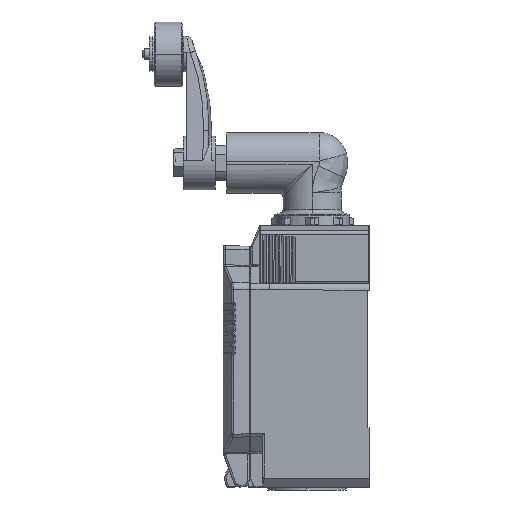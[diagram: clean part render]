
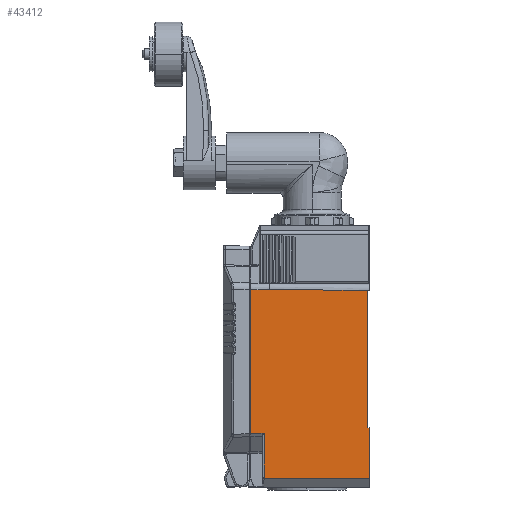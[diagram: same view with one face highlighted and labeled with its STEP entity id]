
A CAD part, left-side view. The second image highlights one B-rep face of the part: STEP entity #43412.
In plain terms, the highlighted planar face has unit normal (-1, 0, 0).
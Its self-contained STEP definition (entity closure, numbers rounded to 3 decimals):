
#546=DIRECTION('',(0.,0.,1.));
#547=VECTOR('',#546,14.096);
#548=CARTESIAN_POINT('',(-21.,-16.,-66.625));
#549=LINE('',#548,#547);
#722=CARTESIAN_POINT('',(-21.,12.,-13.699));
#723=CARTESIAN_POINT('',(-21.,2.667,-13.789));
#724=CARTESIAN_POINT('',(-21.,-6.667,-13.879));
#725=CARTESIAN_POINT('',(-21.,-16.,-13.969));
#727=DIRECTION('',(0.,1.,-0.009));
#728=VECTOR('',#727,0.5);
#729=CARTESIAN_POINT('',(-21.,-16.,-14.012));
#730=LINE('',#729,#728);
#731=DIRECTION('',(0.,0.,1.));
#732=VECTOR('',#731,38.509);
#733=CARTESIAN_POINT('',(-21.,-15.5,-52.525));
#734=LINE('',#733,#732);
#735=DIRECTION('',(0.,1.,0.009));
#736=VECTOR('',#735,0.5);
#737=CARTESIAN_POINT('',(-21.,-16.,-52.529));
#738=LINE('',#737,#736);
#739=DIRECTION('',(0.,1.,0.));
#740=VECTOR('',#739,29.495);
#741=CARTESIAN_POINT('',(-21.,-16.,-66.625));
#742=LINE('',#741,#740);
#743=CARTESIAN_POINT('',(-21.,13.495,-66.625));
#744=CARTESIAN_POINT('',(-21.,13.495,-62.442));
#745=CARTESIAN_POINT('',(-21.,13.494,-58.258));
#746=CARTESIAN_POINT('',(-21.,13.494,-54.075));
#748=DIRECTION('',(0.,0.,1.));
#749=VECTOR('',#748,40.326);
#750=CARTESIAN_POINT('',(-21.,17.217,-54.075));
#751=LINE('',#750,#749);
#752=CARTESIAN_POINT('',(-21.,12.,-13.699));
#753=CARTESIAN_POINT('',(-21.,13.739,-13.716));
#754=CARTESIAN_POINT('',(-21.,15.478,-13.733));
#755=CARTESIAN_POINT('',(-21.,17.217,-13.749));
#785=CARTESIAN_POINT('',(-21.,-16.,-13.969));
#853=DIRECTION('',(0.,0.,1.));
#854=VECTOR('',#853,0.043);
#855=CARTESIAN_POINT('',(-21.,-16.,-14.012));
#856=LINE('',#855,#854);
#34279=DIRECTION('',(0.,-1.,0.));
#34280=VECTOR('',#34279,3.722);
#34281=CARTESIAN_POINT('',(-21.,17.217,-54.075));
#34282=LINE('',#34281,#34280);
#36892=CARTESIAN_POINT('',(-21.,-16.,-66.625));
#36894=VERTEX_POINT('',#36892);
#36994=CARTESIAN_POINT('',(-21.,-16.,-52.529));
#36996=VERTEX_POINT('',#36994);
#37004=CARTESIAN_POINT('',(-21.,-15.5,-52.525));
#37005=VERTEX_POINT('',#37004);
#37637=CARTESIAN_POINT('',(-21.,-16.,-14.012));
#37638=CARTESIAN_POINT('',(-21.,-15.5,-14.016));
#37639=VERTEX_POINT('',#37637);
#37640=VERTEX_POINT('',#37638);
#37767=VERTEX_POINT('',#743);
#37768=VERTEX_POINT('',#746);
#37975=VERTEX_POINT('',#785);
#37976=VERTEX_POINT('',#722);
#37987=VERTEX_POINT('',#755);
#38030=CARTESIAN_POINT('',(-21.,17.217,-54.075));
#38031=VERTEX_POINT('',#38030);
#43386=CARTESIAN_POINT('',(-21.,-16.,-69.125));
#43387=DIRECTION('',(-1.,0.,0.));
#43388=DIRECTION('',(0.,0.,1.));
#43389=AXIS2_PLACEMENT_3D('',#43386,#43387,#43388);
#43390=PLANE('',#43389);
#43392=ORIENTED_EDGE('',*,*,#43391,.T.);
#43394=ORIENTED_EDGE('',*,*,#43393,.F.);
#43396=ORIENTED_EDGE('',*,*,#43395,.T.);
#43398=ORIENTED_EDGE('',*,*,#43397,.F.);
#43400=ORIENTED_EDGE('',*,*,#43399,.F.);
#43401=ORIENTED_EDGE('',*,*,#43260,.F.);
#43402=ORIENTED_EDGE('',*,*,#43296,.T.);
#43403=ORIENTED_EDGE('',*,*,#43377,.T.);
#43405=ORIENTED_EDGE('',*,*,#43404,.F.);
#43407=ORIENTED_EDGE('',*,*,#43406,.T.);
#43409=ORIENTED_EDGE('',*,*,#43408,.F.);
#43410=EDGE_LOOP('',(#43392,#43394,#43396,#43398,#43400,#43401,#43402,#43403,
#43405,#43407,#43409));
#43411=FACE_OUTER_BOUND('',#43410,.F.);
#726=B_SPLINE_CURVE_WITH_KNOTS('',3,(#722,#723,#724,#725),.UNSPECIFIED.,.F.,.F.,
(4,4),(0.,1.),.UNSPECIFIED.);
#747=B_SPLINE_CURVE_WITH_KNOTS('',3,(#743,#744,#745,#746),.UNSPECIFIED.,.F.,.F.,
(4,4),(0.,1.),.UNSPECIFIED.);
#756=B_SPLINE_CURVE_WITH_KNOTS('',3,(#752,#753,#754,#755),.UNSPECIFIED.,.F.,.F.,
(4,4),(0.,1.),.UNSPECIFIED.);
#43260=EDGE_CURVE('',#36894,#36996,#549,.T.);
#43296=EDGE_CURVE('',#36894,#37767,#742,.T.);
#43377=EDGE_CURVE('',#37767,#37768,#747,.T.);
#43391=EDGE_CURVE('',#37976,#37975,#726,.T.);
#43393=EDGE_CURVE('',#37639,#37975,#856,.T.);
#43395=EDGE_CURVE('',#37639,#37640,#730,.T.);
#43397=EDGE_CURVE('',#37005,#37640,#734,.T.);
#43399=EDGE_CURVE('',#36996,#37005,#738,.T.);
#43404=EDGE_CURVE('',#38031,#37768,#34282,.T.);
#43406=EDGE_CURVE('',#38031,#37987,#751,.T.);
#43408=EDGE_CURVE('',#37976,#37987,#756,.T.);
#43412=ADVANCED_FACE('',(#43411),#43390,.T.);
